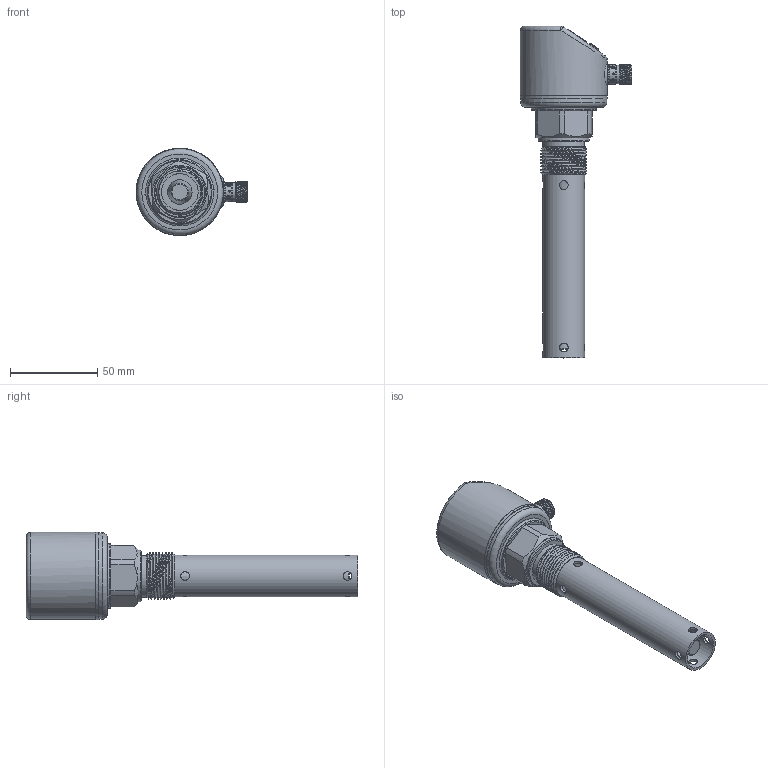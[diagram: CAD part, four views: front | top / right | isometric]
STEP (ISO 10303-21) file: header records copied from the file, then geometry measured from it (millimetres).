
FILE_DESCRIPTION (( 'STEP AP214' ), '1' );
FILE_NAME ('3-4数显电容-100（同轴）.STEP', '2025-03-11T06:14:09', ( '' ), ( '' ), 'SwSTEP 2.0', 'SolidWorks 2020', '' );
FILE_SCHEMA (( 'AUTOMOTIVE_DESIGN' ));
Length unit declared in the file: millimetre
Products named in the file (9): 滅阨諉芛褲极1; PVC躇猾菜; 偌瑩簽; 3-4数显电容-100（同轴）; 抻芛ㄗ蟀哿講ㄘ; 恦謫抻芛5; 揤薯奻裔; 肮粣奪; 揤薯珆尨欶
Assembly tree (10 placements, depth 2):
  3-4数显电容-100（同轴）
    揤薯奻裔
    揤薯珆尨欶
    滅阨諉芛褲极1
    偌瑩簽  x3
    PVC躇猾菜
    恦謫抻芛5
    抻芛ㄗ蟀哿講ㄘ
    肮粣奪
Bounding box: 64 x 190.1 x 50 mm (x, y, z)
Volume: 56830.3 mm3; surface area: 51236.9 mm2
Topology: 10 solids, 10 shells, 318 faces, 752 edges, 486 vertices
Faces by surface type: plane 128, cylinder 118, cone 44, bspline 13, torus 11, sphere 4
Full cylindrical faces by diameter (mm): 1 x4, 1.2 x3, 1.8 x1, 2 x3, 2.5 x6, 2.8 x1, 4.3 x3, 4.5 x6, 5 x8, 6 x1, 7.2 x1, 8 x1, 8.5 x1, 9.75 x1, 10 x1, 10.49 x1, 10.5 x1, 10.8 x1, 10.9 x1, 11 x2, 12 x1, 21 x2, 24 x2, 29.5 x1, 35 x1, 37 x1, 43.9 x1, 45.4 x1, 45.6 x2, 48 x3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
Entity records: 14721 total; most frequent: CARTESIAN_POINT 7955, DIRECTION 1314, ORIENTED_EDGE 1104, EDGE_CURVE 552, AXIS2_PLACEMENT_3D 536, EDGE_LOOP 479, VERTEX_POINT 411, FACE_OUTER_BOUND 359
